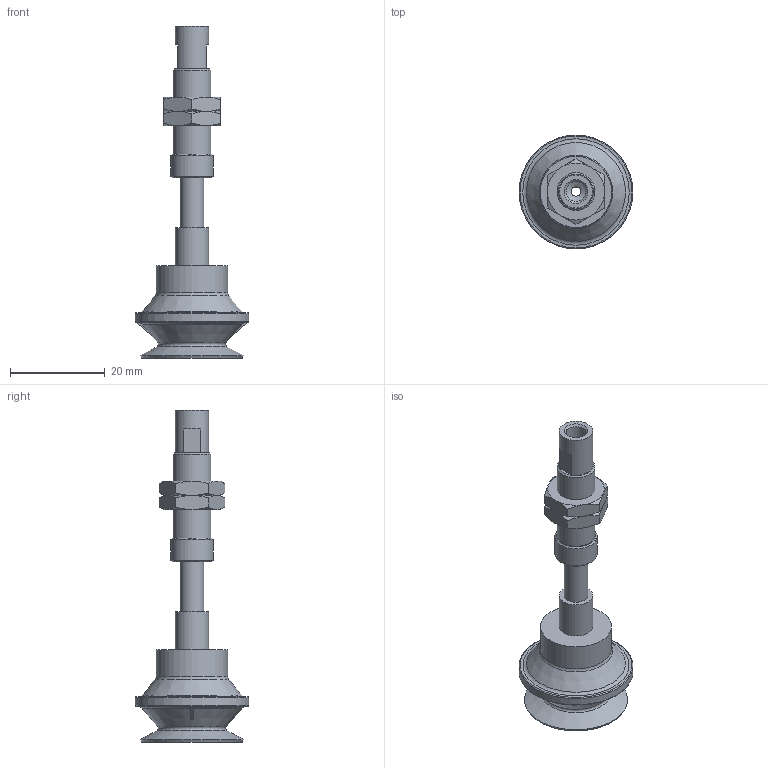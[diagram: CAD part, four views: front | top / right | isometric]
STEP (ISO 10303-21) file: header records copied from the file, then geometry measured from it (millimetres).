
FILE_DESCRIPTION(('STEP AP203'),'1');
FILE_NAME('-PE.stp','2025-04-02T02:53:43',(' '),(' '),'Spatial InterOp 3D',' ',' ');
FILE_SCHEMA(('CONFIG_CONTROL_DESIGN'));
Length unit declared in the file: millimetre
Products named in the file (7): BNABPBTS-20-10-※-PE; ZIG; BODY; NUT; BPBG-20-※; TN-PF-20-M5
Assembly tree (6 placements, depth 2):
  BNABPBTS-20-10-※-PE
    ZIG
    BODY
    NUT
    NUT
    BPBG-20-※
    TN-PF-20-M5
Bounding box: 24 x 24 x 70 mm (x, y, z)
Volume: 5694.9 mm3; surface area: 6077.5 mm2
Topology: 6 solids, 6 shells, 134 faces, 284 edges, 171 vertices
Faces by surface type: plane 55, cone 47, cylinder 22, torus 10
Full cylindrical faces by diameter (mm): 2 x1, 2.5 x1, 3 x1, 4 x2, 4.2 x2, 4.6 x1, 5 x3, 5.2 x1, 7 x2, 7.25 x2, 8 x1, 9 x1, 10.8 x1, 11 x1, 15 x1, 24 x1
Entity records: 3620 total; most frequent: CARTESIAN_POINT 677, DIRECTION 568, ORIENTED_EDGE 438, AXIS2_PLACEMENT_3D 256, EDGE_CURVE 219, EDGE_LOOP 206, FACE_OUTER_BOUND 164, VERTEX_POINT 157
